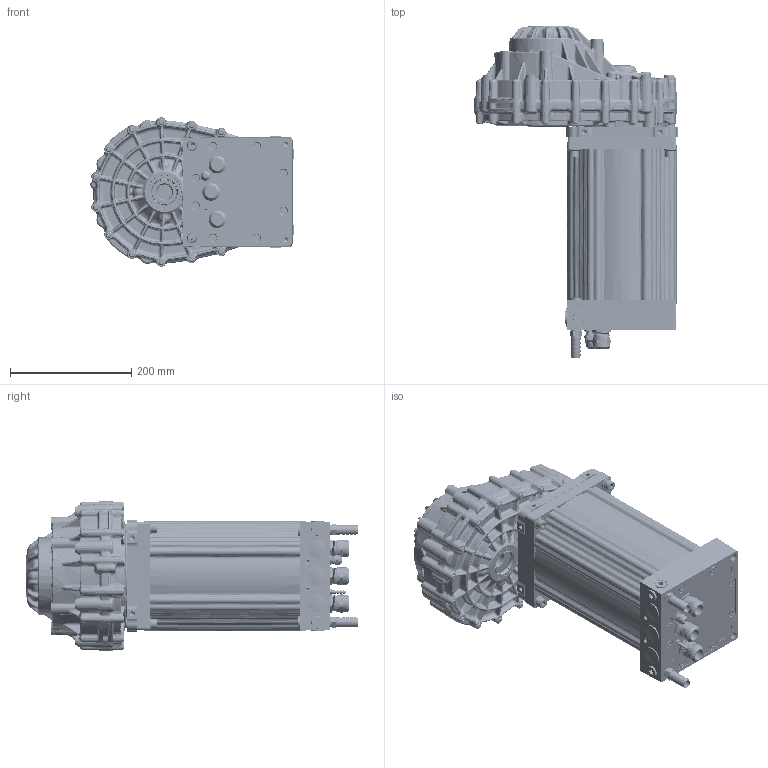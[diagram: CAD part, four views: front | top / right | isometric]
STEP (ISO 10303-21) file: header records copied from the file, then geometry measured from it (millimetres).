
FILE_DESCRIPTION(('CATIA V5 STEP Exchange'),'2;1');
FILE_NAME('R:\180___SWIND_PRODUCTS\001___R&D\002___DESIGN_FILES\180-100-033___HPD-L_190_DRIVE_UNIT_4WD\180-100-033.00___HPD-L_190_DRIVE_UNIT_4WD.stp','2022-06-27T13:05:25+00:00',('none'),('none'),'CATIA Version 5 Release 20 GA (IN-10)','CATIA V5 STEP AP203','none');
FILE_SCHEMA(('CONFIG_CONTROL_DESIGN'));
Products named in the file (1): 180-100-033
Bounding box: 335.35 x 546.5 x 246.26 mm (x, y, z)
Volume: 14232291 mm3; surface area: 958223.6 mm2
Topology: 18 solids, 91 shells, 12514 faces, 30676 edges, 18088 vertices
Faces by surface type: bspline 5820, cylinder 1887, plane 1495, torus 1218, cone 1136, sphere 441, extrusion 440, revolution 77
Entity records: 634383 total; most frequent: CARTESIAN_POINT 413767, ORIENTED_EDGE 60248, EDGE_CURVE 30124, DIRECTION 20414, VERTEX_POINT 18088, B_SPLINE_CURVE_WITH_KNOTS 16726, EDGE_LOOP 12968, ADVANCED_FACE 12514
